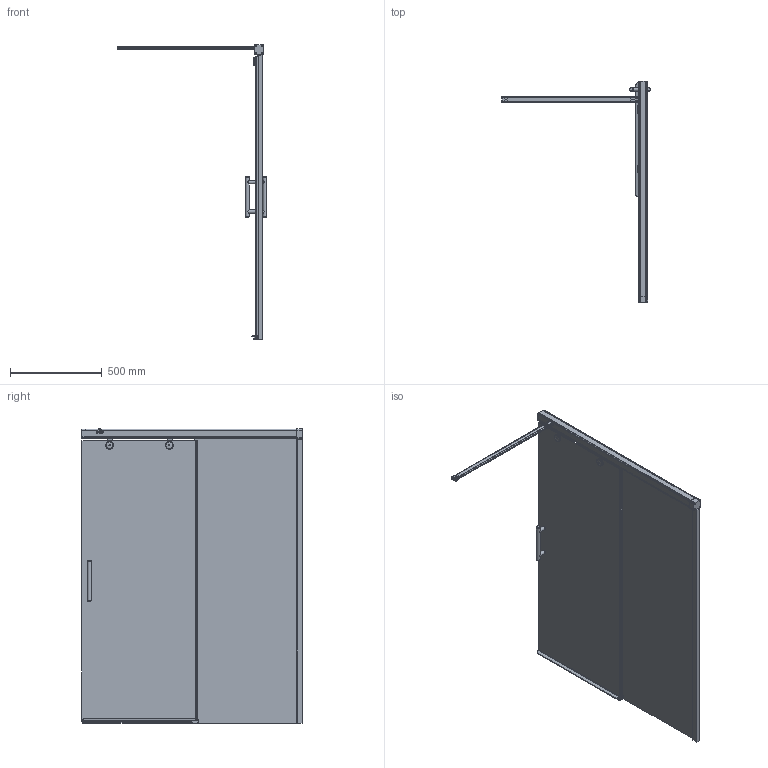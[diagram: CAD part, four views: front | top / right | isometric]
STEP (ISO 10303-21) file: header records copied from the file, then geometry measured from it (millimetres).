
FILE_DESCRIPTION(/* description */ (''),/* implementation_level */ '2;1');
FILE_NAME(/* name */ 'D:\88\SLIDE PEARL GV-862\SLIDE PEARL GV-862 левая модель\SLIDE PEARL GV-862 ЛЕВАЯ-3D.stp',/* time_stamp */ '2020-09-26T11:02:34+03:00',/* author */ ('User'),/* organization */ (''),/* preprocessor_version */ 'ST-DEVELOPER v15.2',/* originating_system */ 'Autodesk Inventor 2014',/* authorisation */ '');
FILE_SCHEMA (('AUTOMOTIVE_DESIGN { 1 0 10303 214 3 1 1 }'));
Length unit declared in the file: millimetre
Products named in the file (1): SLIDE PEARL GV-862 ЛЕВАЯ-3D
Bounding box: 810.5 x 1203 x 1601.5 mm (x, y, z)
Volume: 16919816.1 mm3; surface area: 4603477.6 mm2
Topology: 2 solids, 8 shells, 745 faces, 1910 edges, 1201 vertices
Faces by surface type: plane 438, cylinder 236, torus 56, cone 8, bspline 7
Full cylindrical faces by diameter (mm): 2.8 x3, 4 x2, 11 x2, 15.5 x2, 16 x2, 20 x6, 37 x4, 42 x4
Entity records: 23576 total; most frequent: CARTESIAN_POINT 4628, DIRECTION 3808, ORIENTED_EDGE 3726, EDGE_CURVE 1861, AXIS2_PLACEMENT_3D 1282, LINE 1244, VECTOR 1244, VERTEX_POINT 1191
